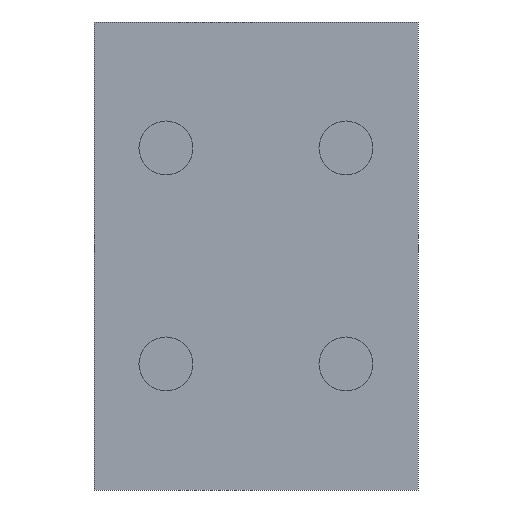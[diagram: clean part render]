
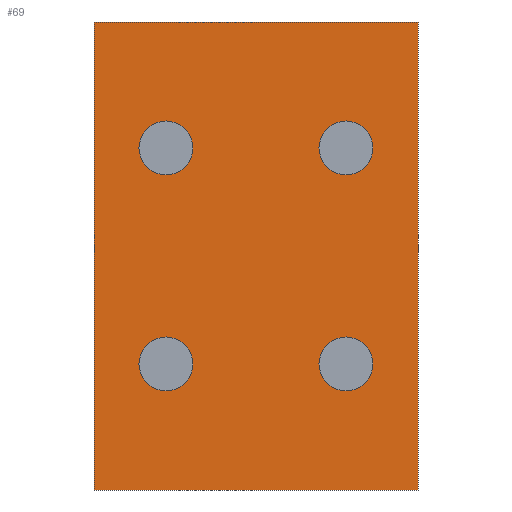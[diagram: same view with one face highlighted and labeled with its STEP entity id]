
A CAD part, left-side view. The second image highlights one B-rep face of the part: STEP entity #69.
In plain terms, the highlighted planar face has unit normal (-1, 0, 0).
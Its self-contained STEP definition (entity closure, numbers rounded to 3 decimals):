
#69=ADVANCED_FACE('',(#166,#167,#168,#169,#170),#171,.T.);
#166=FACE_OUTER_BOUND('',#294,.T.);
#167=FACE_BOUND('',#295,.T.);
#168=FACE_BOUND('',#296,.T.);
#169=FACE_BOUND('',#297,.T.);
#170=FACE_BOUND('',#298,.T.);
#171=PLANE('',#299);
#294=EDGE_LOOP('',(#429,#430,#431,#432));
#295=EDGE_LOOP('',(#433,#434));
#296=EDGE_LOOP('',(#435,#436));
#297=EDGE_LOOP('',(#437,#438));
#298=EDGE_LOOP('',(#439,#440));
#299=AXIS2_PLACEMENT_3D('',#441,#442,#443);
#429=ORIENTED_EDGE('',*,*,#753,.T.);
#430=ORIENTED_EDGE('',*,*,#754,.F.);
#431=ORIENTED_EDGE('',*,*,#755,.T.);
#432=ORIENTED_EDGE('',*,*,#741,.T.);
#433=ORIENTED_EDGE('',*,*,#756,.F.);
#434=ORIENTED_EDGE('',*,*,#757,.F.);
#435=ORIENTED_EDGE('',*,*,#758,.F.);
#436=ORIENTED_EDGE('',*,*,#759,.F.);
#437=ORIENTED_EDGE('',*,*,#760,.F.);
#438=ORIENTED_EDGE('',*,*,#761,.F.);
#439=ORIENTED_EDGE('',*,*,#762,.F.);
#440=ORIENTED_EDGE('',*,*,#763,.F.);
#441=CARTESIAN_POINT('',(117.0,0.,-5.0));
#442=DIRECTION('',(-1.0,0.0,0.0));
#443=DIRECTION('',(0.0,-1.0,0.0));
#741=EDGE_CURVE('',#872,#870,#873,.T.);
#753=EDGE_CURVE('',#870,#892,#893,.T.);
#754=EDGE_CURVE('',#894,#892,#895,.T.);
#755=EDGE_CURVE('',#894,#872,#896,.T.);
#756=EDGE_CURVE('',#897,#898,#899,.T.);
#757=EDGE_CURVE('',#898,#897,#900,.T.);
#758=EDGE_CURVE('',#901,#902,#903,.T.);
#759=EDGE_CURVE('',#902,#901,#904,.T.);
#760=EDGE_CURVE('',#905,#906,#907,.T.);
#761=EDGE_CURVE('',#906,#905,#908,.T.);
#762=EDGE_CURVE('',#909,#910,#911,.T.);
#763=EDGE_CURVE('',#910,#909,#912,.T.);
#870=VERTEX_POINT('',#1059);
#872=VERTEX_POINT('',#1062);
#873=LINE('',#1063,#1064);
#892=VERTEX_POINT('',#1089);
#893=LINE('',#1090,#1091);
#894=VERTEX_POINT('',#1092);
#895=LINE('',#1093,#1094);
#896=LINE('',#1095,#1096);
#897=VERTEX_POINT('',#1097);
#898=VERTEX_POINT('',#1098);
#899=CIRCLE('',#1099,7.5);
#900=CIRCLE('',#1100,7.5);
#901=VERTEX_POINT('',#1101);
#902=VERTEX_POINT('',#1102);
#903=CIRCLE('',#1103,7.5);
#904=CIRCLE('',#1104,7.5);
#905=VERTEX_POINT('',#1105);
#906=VERTEX_POINT('',#1106);
#907=CIRCLE('',#1107,7.5);
#908=CIRCLE('',#1108,7.5);
#909=VERTEX_POINT('',#1109);
#910=VERTEX_POINT('',#1110);
#911=CIRCLE('',#1111,7.5);
#912=CIRCLE('',#1112,7.5);
#1059=CARTESIAN_POINT('',(117.0,-45.0,125.0));
#1062=CARTESIAN_POINT('',(117.0,-45.0,-5.0));
#1063=CARTESIAN_POINT('',(117.0,-45.0,-5.0));
#1064=VECTOR('',#1305,1.0);
#1089=CARTESIAN_POINT('',(117.0,45.0,125.0));
#1090=CARTESIAN_POINT('',(117.0,45.0,125.0));
#1091=VECTOR('',#1318,1.0);
#1092=CARTESIAN_POINT('',(117.0,45.0,-5.0));
#1093=CARTESIAN_POINT('',(117.0,45.0,-5.0));
#1094=VECTOR('',#1319,1.0);
#1095=CARTESIAN_POINT('',(117.0,45.0,-5.0));
#1096=VECTOR('',#1320,1.0);
#1097=CARTESIAN_POINT('',(117.0,-25.0,22.5));
#1098=CARTESIAN_POINT('',(117.0,-25.0,37.5));
#1099=AXIS2_PLACEMENT_3D('',#1321,#1322,#1323);
#1100=AXIS2_PLACEMENT_3D('',#1324,#1325,#1326);
#1101=CARTESIAN_POINT('',(117.0,25.0,22.5));
#1102=CARTESIAN_POINT('',(117.0,25.0,37.5));
#1103=AXIS2_PLACEMENT_3D('',#1327,#1328,#1329);
#1104=AXIS2_PLACEMENT_3D('',#1330,#1331,#1332);
#1105=CARTESIAN_POINT('',(117.0,-25.0,82.5));
#1106=CARTESIAN_POINT('',(117.0,-25.0,97.5));
#1107=AXIS2_PLACEMENT_3D('',#1333,#1334,#1335);
#1108=AXIS2_PLACEMENT_3D('',#1336,#1337,#1338);
#1109=CARTESIAN_POINT('',(117.0,25.0,82.5));
#1110=CARTESIAN_POINT('',(117.0,25.0,97.5));
#1111=AXIS2_PLACEMENT_3D('',#1339,#1340,#1341);
#1112=AXIS2_PLACEMENT_3D('',#1342,#1343,#1344);
#1305=DIRECTION('',(0.0,0.0,1.0));
#1318=DIRECTION('',(0.0,1.0,0.0));
#1319=DIRECTION('',(0.0,0.0,1.0));
#1320=DIRECTION('',(0.0,-1.0,0.0));
#1321=CARTESIAN_POINT('',(117.0,-25.0,30.0));
#1322=DIRECTION('',(-1.0,0.,0.));
#1323=DIRECTION('',(0.,0.0,-1.0));
#1324=CARTESIAN_POINT('',(117.0,-25.0,30.0));
#1325=DIRECTION('',(-1.0,0.,0.));
#1326=DIRECTION('',(0.,0.0,-1.0));
#1327=CARTESIAN_POINT('',(117.0,25.0,30.0));
#1328=DIRECTION('',(-1.0,0.0,0.));
#1329=DIRECTION('',(0.,0.0,-1.0));
#1330=CARTESIAN_POINT('',(117.0,25.0,30.0));
#1331=DIRECTION('',(-1.0,0.0,0.));
#1332=DIRECTION('',(0.,0.0,-1.0));
#1333=CARTESIAN_POINT('',(117.0,-25.0,90.0));
#1334=DIRECTION('',(-1.0,0.,0.));
#1335=DIRECTION('',(0.,0.0,-1.0));
#1336=CARTESIAN_POINT('',(117.0,-25.0,90.0));
#1337=DIRECTION('',(-1.0,0.,0.));
#1338=DIRECTION('',(0.,0.0,-1.0));
#1339=CARTESIAN_POINT('',(117.0,25.0,90.0));
#1340=DIRECTION('',(-1.0,0.0,0.));
#1341=DIRECTION('',(0.,0.0,-1.0));
#1342=CARTESIAN_POINT('',(117.0,25.0,90.0));
#1343=DIRECTION('',(-1.0,0.0,0.));
#1344=DIRECTION('',(0.,0.0,-1.0));
